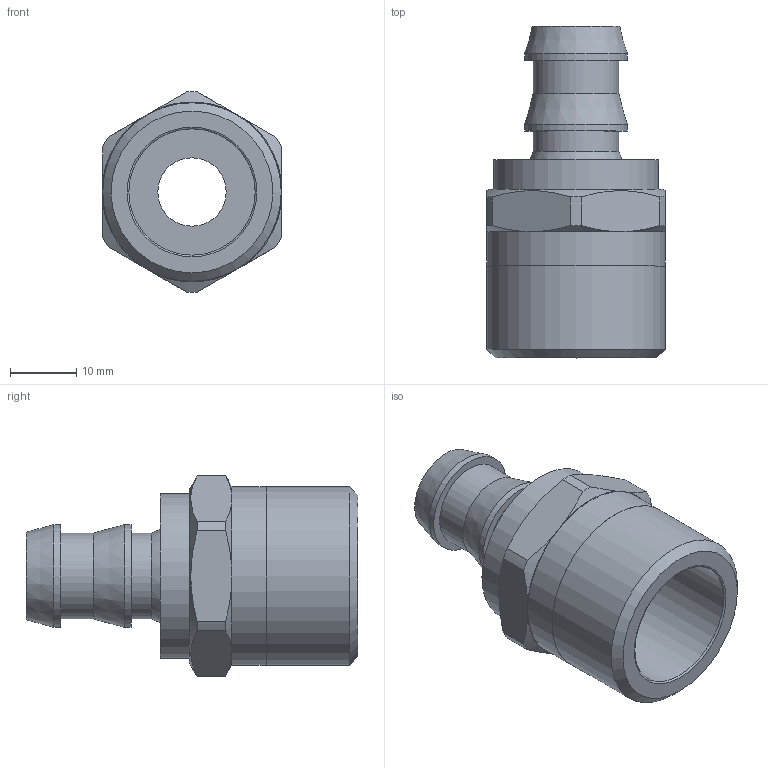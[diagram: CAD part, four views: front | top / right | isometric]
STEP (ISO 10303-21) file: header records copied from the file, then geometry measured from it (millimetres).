
FILE_DESCRIPTION(/* description */ (''),/* implementation_level */ '2;1');
FILE_NAME(/* name */ 'C:/Users/drich/Desktop/PLM-08-12 v1.step',/* time_stamp */ '2020-02-02T14:47:09-06:00',/* author */ (''),/* organization */ (''),/* preprocessor_version */ 'ST-DEVELOPER v18',/* originating_system */ 'Autodesk Translation Framework v8.12.0.6',/* authorisation */ '');
FILE_SCHEMA (('AUTOMOTIVE_DESIGN { 1 0 10303 214 3 1 1 }'));
Length unit declared in the file: inch
Products named in the file (3): PLM-08-12; -08 BARB ONLY; FW-10
Assembly tree (2 placements, depth 2):
  PLM-08-12
    -08 BARB ONLY
    FW-10
Bounding box: 26.97 x 50.04 x 30.22 mm (x, y, z)
Volume: 11199.5 mm3; surface area: 7922.6 mm2
Topology: 3 solids, 3 shells, 57 faces, 150 edges, 105 vertices
Faces by surface type: plane 24, cylinder 20, cone 12, torus 1
Full cylindrical faces by diameter (mm): 10.312 x2, 12.954 x2, 13.894 x1, 14.859 x1, 15.494 x3, 19.05 x1, 22.352 x1, 24.892 x1, 26.924 x1, 26.975 x1
Entity records: 1928 total; most frequent: CARTESIAN_POINT 353, DIRECTION 344, ORIENTED_EDGE 300, EDGE_CURVE 150, AXIS2_PLACEMENT_3D 150, VERTEX_POINT 105, CIRCLE 88, EDGE_LOOP 69
